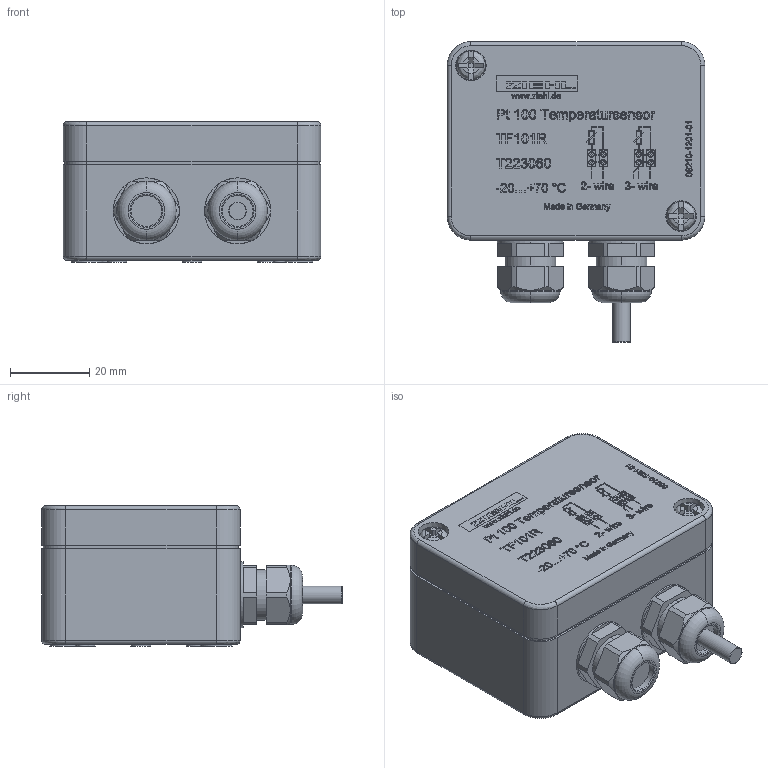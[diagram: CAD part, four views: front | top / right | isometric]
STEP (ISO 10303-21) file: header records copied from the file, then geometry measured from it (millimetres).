
FILE_DESCRIPTION (( 'STEP AP214' ), '1' );
FILE_NAME ('06210-1906-00_3D.STEP', '2018-01-24T06:58:26', ( '' ), ( '' ), 'SwSTEP 2.0', 'SolidWorks 2018', '' );
FILE_SCHEMA (( 'AUTOMOTIVE_DESIGN' ));
Length unit declared in the file: millimetre
Products named in the file (7): Kopie von _Schraube_TK55-20mm^06210-1906-00_3D; Kopie von 12220-1903-00_UT-Batt_3D^06210-1906-00_3D; Kopie von PG-Verschraubung^06210-1906-00_3D; Kopie (2) von 06210-1201-01_3D^06210-1906-00_3D; 06210-1906-00_3D; Kopie (2) von Sensor^06210-1906-00_3D; Kopie von _Deckel_TK75-4-t^06210-1906-00_3D
Assembly tree (8 placements, depth 2):
  06210-1906-00_3D
    Kopie von 12220-1903-00_UT-Batt_3D^06210-1906-00_3D
    Kopie von _Deckel_TK75-4-t^06210-1906-00_3D
    Kopie von _Schraube_TK55-20mm^06210-1906-00_3D  x2
    Kopie (2) von 06210-1201-01_3D^06210-1906-00_3D
    Kopie von PG-Verschraubung^06210-1906-00_3D  x2
    Kopie (2) von Sensor^06210-1906-00_3D
Bounding box: 65 x 75.78 x 35.53 mm (x, y, z)
Volume: 40882.6 mm3; surface area: 38135.2 mm2
Topology: 163 solids, 163 shells, 1891 faces, 4465 edges, 2953 vertices
Faces by surface type: plane 1354, bspline 302, cylinder 168, cone 50, torus 17
Full cylindrical faces by diameter (mm): 1.296 x8, 1.44 x8, 2.5 x6, 3 x2, 3.1 x2, 3.242 x2, 3.9 x2, 4.1 x2, 4.5 x3, 5 x8, 6 x2, 7.2 x2, 8 x2, 12.5 x1
Entity records: 64022 total; most frequent: CARTESIAN_POINT 18483, ORIENTED_EDGE 8296, DIRECTION 6877, EDGE_CURVE 4148, VECTOR 3119, LINE 3119, VERTEX_POINT 2793, EDGE_LOOP 2017
